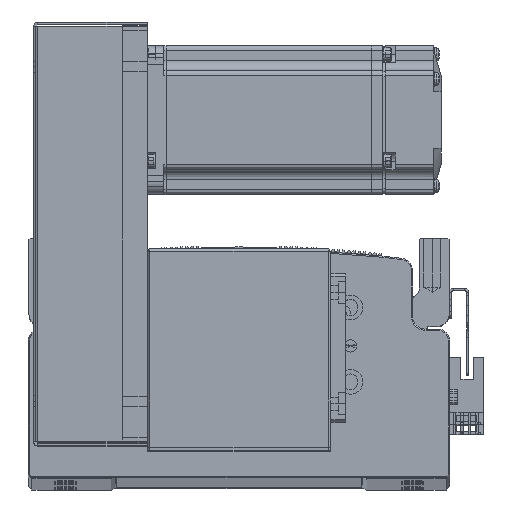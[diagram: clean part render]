
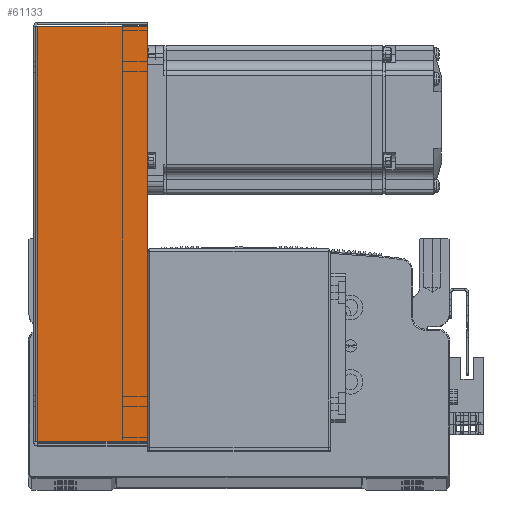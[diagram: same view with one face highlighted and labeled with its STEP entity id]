
A CAD part, top view. The second image highlights one B-rep face of the part: STEP entity #61133.
In plain terms, the highlighted planar face has unit normal (0, 0, 1) as drawn and (0, 0, -1) by its records, which use the part's own axes.
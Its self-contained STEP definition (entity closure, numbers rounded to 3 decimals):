
#2159 = LINE ( 'NONE', #8213, #2204 ) ;
#2162 = VECTOR ( 'NONE', #8326, 1000. ) ;
#2194 = LINE ( 'NONE', #8365, #2162 ) ;
#2204 = VECTOR ( 'NONE', #8218, 1000. ) ;
#2245 = VECTOR ( 'NONE', #8628, 1000. ) ;
#2249 = LINE ( 'NONE', #8668, #2245 ) ;
#2250 = LINE ( 'NONE', #8625, #2275 ) ;
#2275 = VECTOR ( 'NONE', #8641, 1000. ) ;
#8213 = CARTESIAN_POINT ( 'NONE',  ( -83.793, 0., -40.5 ) ) ;
#8218 = DIRECTION ( 'NONE',  ( 0., 1., 0. ) ) ;
#8326 = DIRECTION ( 'NONE',  ( 1., 0., 0. ) ) ;
#8365 = CARTESIAN_POINT ( 'NONE',  ( 84.5, 45., -40.5 ) ) ;
#8625 = CARTESIAN_POINT ( 'NONE',  ( 83.793, 0., -40.5 ) ) ;
#8628 = DIRECTION ( 'NONE',  ( 1., 0., 0. ) ) ;
#8641 = DIRECTION ( 'NONE',  ( 0., 1., 0. ) ) ;
#8668 = CARTESIAN_POINT ( 'NONE',  ( 0., 0.737, -40.5 ) ) ;
#18004 = VERTEX_POINT ( 'NONE', #76783 ) ;
#18104 = VERTEX_POINT ( 'NONE', #76846 ) ;
#18169 = VERTEX_POINT ( 'NONE', #76824 ) ;
#18330 = VERTEX_POINT ( 'NONE', #76884 ) ;
#34315 = ORIENTED_EDGE ( 'NONE', *, *, #68785, .T. ) ;
#34324 = ORIENTED_EDGE ( 'NONE', *, *, #68827, .F. ) ;
#34354 = ORIENTED_EDGE ( 'NONE', *, *, #68776, .T. ) ;
#34358 = ORIENTED_EDGE ( 'NONE', *, *, #68824, .F. ) ;
#61133 = ADVANCED_FACE ( 'NONE', ( #81906 ), #86538, .F. ) ;
#68776 = EDGE_CURVE ( 'NONE', #18169, #18004, #2159, .T. ) ;
#68785 = EDGE_CURVE ( 'NONE', #18004, #18330, #2194, .T. ) ;
#68824 = EDGE_CURVE ( 'NONE', #18104, #18330, #2250, .T. ) ;
#68827 = EDGE_CURVE ( 'NONE', #18169, #18104, #2249, .T. ) ;
#76783 = CARTESIAN_POINT ( 'NONE',  ( -83.793, 45., -40.5 ) ) ;
#76824 = CARTESIAN_POINT ( 'NONE',  ( -83.793, 0.737, -40.5 ) ) ;
#76846 = CARTESIAN_POINT ( 'NONE',  ( 83.793, 0.737, -40.5 ) ) ;
#76884 = CARTESIAN_POINT ( 'NONE',  ( 83.793, 45., -40.5 ) ) ;
#78178 = EDGE_LOOP ( 'NONE', ( #34324, #34354, #34315, #34358 ) ) ;
#81906 = FACE_OUTER_BOUND ( 'NONE', #78178, .T. ) ;
#82988 = AXIS2_PLACEMENT_3D ( 'NONE', #86549, #86521, #86567 ) ;
#86521 = DIRECTION ( 'NONE',  ( 0., 0., 1. ) ) ;
#86538 = PLANE ( 'NONE',  #82988 ) ;
#86549 = CARTESIAN_POINT ( 'NONE',  ( 0., 0., -40.5 ) ) ;
#86567 = DIRECTION ( 'NONE',  ( 0., -1., 0. ) ) ;
